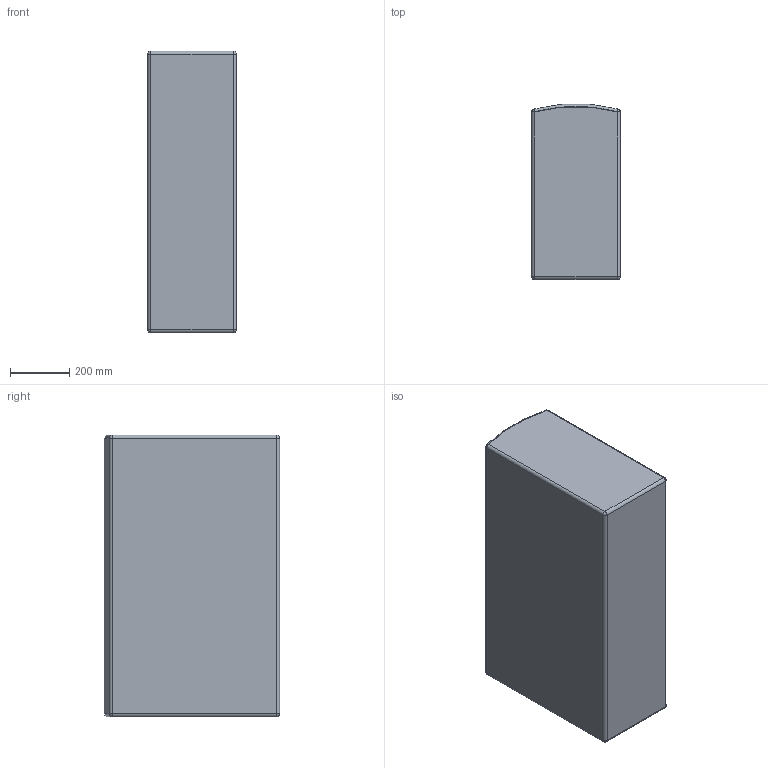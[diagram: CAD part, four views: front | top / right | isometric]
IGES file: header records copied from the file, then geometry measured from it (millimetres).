
Start section: SolidWorks IGES file using NURBS representation for surfaces
Global section: file name: G:\VICCARBE\PRODUCTOS\18-BERRY\04-MODELADOS (PLANOS)\SOLIDWORKS\ELEMENTOS\VICCARBE_Berry_BEB30.IGS; native system: SolidWorks 2009; preprocessor: SolidWorks 2009; author: RUBEN; date: 110902.094649; units: millimetre
Bounding box: 300 x 593.75 x 955 mm (x, y, z)
Surface area: 2000710.7 mm2 (no closed solid volume)
Topology: 0 solids, 0 shells, 26 faces, 118 edges, 110 vertices
Faces by surface type: bspline 26
